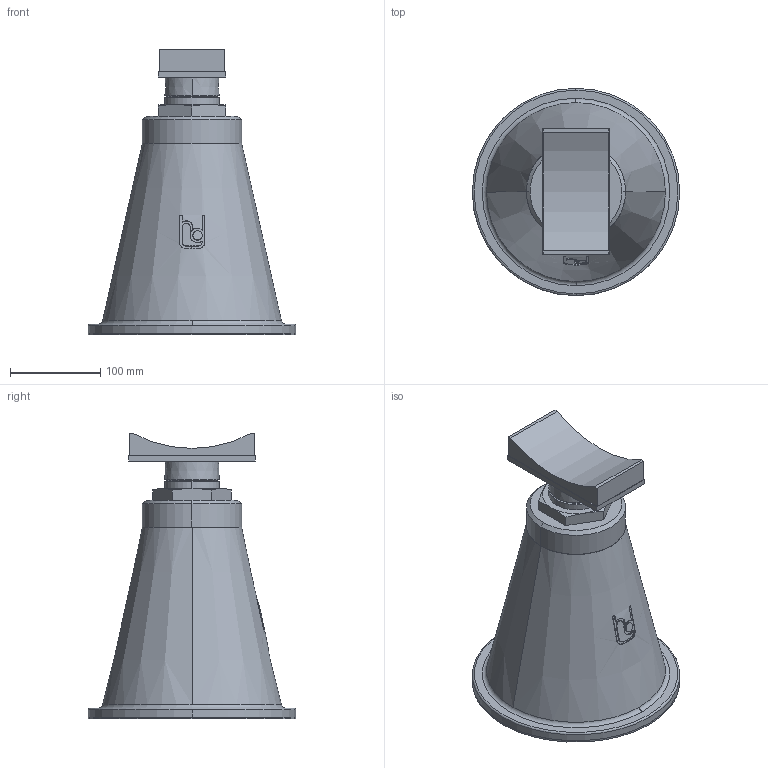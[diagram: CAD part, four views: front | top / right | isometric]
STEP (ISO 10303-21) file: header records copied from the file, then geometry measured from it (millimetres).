
FILE_DESCRIPTION(('STEP AP214'),'1');
FILE_NAME('RSRFA_DN250.stp','2018-06-25T09:53:48',(' '),(' '),'Spatial InterOp 3D',' ',' ');
FILE_SCHEMA(('automotive_design'));
Length unit declared in the file: millimetre
Products named in the file (6): 1; 2; 3; 4; 5; 6
Bounding box: 230 x 230 x 317 mm (x, y, z)
Volume: 5679374.2 mm3; surface area: 394753 mm2
Topology: 6 solids, 7 shells, 118 faces, 280 edges, 180 vertices
Faces by surface type: plane 51, cylinder 34, cone 25, torus 8
Entity records: 4854 total; most frequent: CARTESIAN_POINT 1042, DIRECTION 592, ORIENTED_EDGE 560, EDGE_CURVE 280, AXIS2_PLACEMENT_3D 230, VERTEX_POINT 180, LINE 132, VECTOR 132
